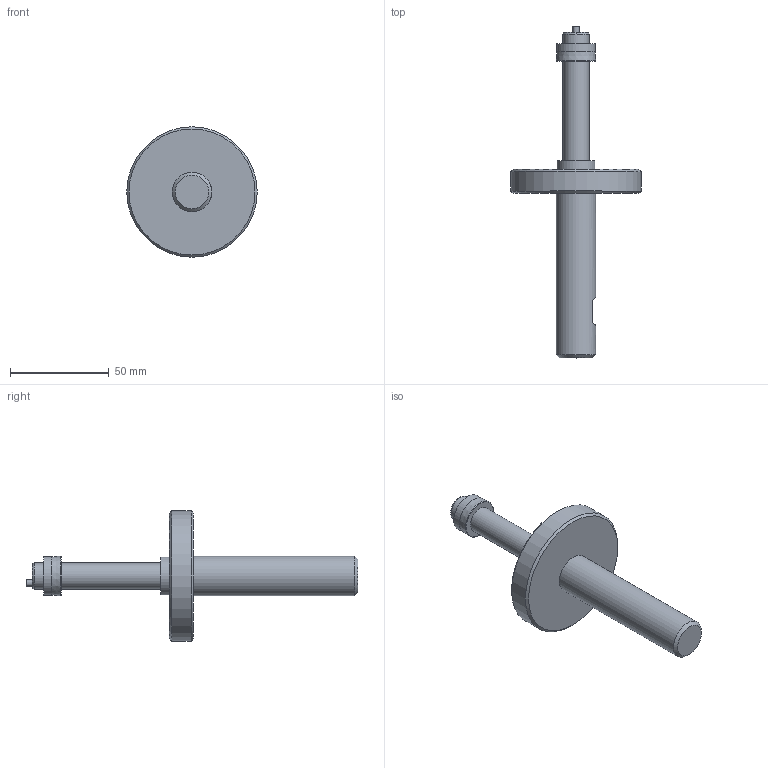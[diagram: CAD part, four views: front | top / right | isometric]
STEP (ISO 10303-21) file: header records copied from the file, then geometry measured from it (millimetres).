
FILE_DESCRIPTION (( 'STEP AP203' ), '1' );
FILE_NAME ('AF53-SIMPLE - AF53-13.50M-20.00M.step', '2025-01-21T20:28:41', ( '' ), ( '' ), 'SwSTEP 2.0', 'SolidWorks 2024', '' );
FILE_SCHEMA (( 'CONFIG_CONTROL_DESIGN' ));
Length unit declared in the file: inch
Products named in the file (1): AF53-SIMPLE - AF53-13.50M-20.00M
Bounding box: 66.04 x 168.02 x 66.04 mm (x, y, z)
Volume: 79234.2 mm3; surface area: 17779.7 mm2
Topology: 1 solids, 1 shells, 24 faces, 40 edges, 25 vertices
Faces by surface type: plane 11, cylinder 7, cone 5, torus 1
Full cylindrical faces by diameter (mm): 3.175 x1, 13.36 x2, 19.05 x1, 19.494 x1, 20 x1, 66.04 x1
Entity records: 569 total; most frequent: DIRECTION 94, CARTESIAN_POINT 81, ORIENTED_EDGE 52, AXIS2_PLACEMENT_3D 45, EDGE_LOOP 44, FACE_OUTER_BOUND 32, EDGE_CURVE 26, VERTEX_POINT 24
